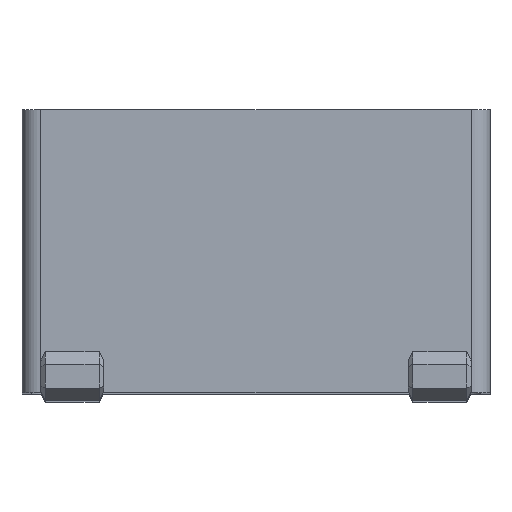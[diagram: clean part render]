
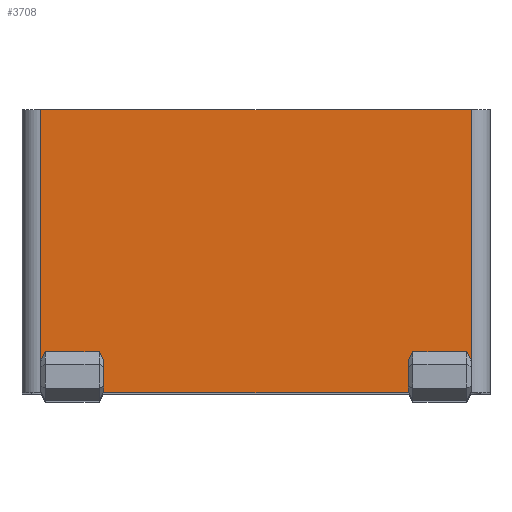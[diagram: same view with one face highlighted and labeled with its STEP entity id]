
A CAD part, top view. The second image highlights one B-rep face of the part: STEP entity #3708.
In plain terms, the highlighted planar face has unit normal (0, 0, 1).
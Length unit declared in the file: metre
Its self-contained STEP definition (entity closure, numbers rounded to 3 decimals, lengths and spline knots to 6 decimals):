
#134=LINE('',#5596,#526);
#170=LINE('',#5747,#562);
#171=LINE('',#5750,#563);
#172=LINE('',#5752,#564);
#173=LINE('',#5754,#565);
#174=LINE('',#5755,#566);
#175=LINE('',#5757,#567);
#176=LINE('',#5759,#568);
#177=LINE('',#5761,#569);
#178=LINE('',#5763,#570);
#179=LINE('',#5765,#571);
#180=LINE('',#5767,#572);
#526=VECTOR('',#4438,1.);
#562=VECTOR('',#4586,1.);
#563=VECTOR('',#4587,1.);
#564=VECTOR('',#4588,1.);
#565=VECTOR('',#4589,1.);
#566=VECTOR('',#4590,1.);
#567=VECTOR('',#4591,1.);
#568=VECTOR('',#4592,1.);
#569=VECTOR('',#4593,1.);
#570=VECTOR('',#4594,1.);
#571=VECTOR('',#4595,1.);
#572=VECTOR('',#4596,1.);
#1065=ORIENTED_EDGE('',*,*,#2093,.F.);
#1066=ORIENTED_EDGE('',*,*,#2094,.F.);
#1067=ORIENTED_EDGE('',*,*,#2095,.F.);
#1068=ORIENTED_EDGE('',*,*,#2096,.F.);
#1069=ORIENTED_EDGE('',*,*,#2017,.F.);
#1070=ORIENTED_EDGE('',*,*,#2097,.T.);
#1071=ORIENTED_EDGE('',*,*,#2098,.T.);
#1072=ORIENTED_EDGE('',*,*,#2099,.T.);
#1073=ORIENTED_EDGE('',*,*,#2100,.T.);
#1074=ORIENTED_EDGE('',*,*,#2101,.T.);
#1075=ORIENTED_EDGE('',*,*,#2102,.T.);
#1076=ORIENTED_EDGE('',*,*,#2103,.F.);
#2017=EDGE_CURVE('',#2541,#2542,#134,.T.);
#2093=EDGE_CURVE('',#2596,#2597,#170,.T.);
#2094=EDGE_CURVE('',#2598,#2596,#171,.T.);
#2095=EDGE_CURVE('',#2599,#2598,#172,.T.);
#2096=EDGE_CURVE('',#2542,#2599,#173,.T.);
#2097=EDGE_CURVE('',#2541,#2600,#174,.T.);
#2098=EDGE_CURVE('',#2600,#2601,#175,.T.);
#2099=EDGE_CURVE('',#2601,#2602,#176,.T.);
#2100=EDGE_CURVE('',#2602,#2603,#177,.T.);
#2101=EDGE_CURVE('',#2603,#2604,#178,.T.);
#2102=EDGE_CURVE('',#2604,#2605,#179,.T.);
#2103=EDGE_CURVE('',#2597,#2605,#180,.T.);
#2541=VERTEX_POINT('',#5595);
#2542=VERTEX_POINT('',#5597);
#2596=VERTEX_POINT('',#5748);
#2597=VERTEX_POINT('',#5749);
#2598=VERTEX_POINT('',#5751);
#2599=VERTEX_POINT('',#5753);
#2600=VERTEX_POINT('',#5756);
#2601=VERTEX_POINT('',#5758);
#2602=VERTEX_POINT('',#5760);
#2603=VERTEX_POINT('',#5762);
#2604=VERTEX_POINT('',#5764);
#2605=VERTEX_POINT('',#5766);
#2960=EDGE_LOOP('',(#1065,#1066,#1067,#1068,#1069,#1070,#1071,#1072,#1073,
#1074,#1075,#1076));
#3266=FACE_BOUND('',#2960,.T.);
#3539=PLANE('',#4030);
#3708=ADVANCED_FACE('',(#3266),#3539,.F.);
#4030=AXIS2_PLACEMENT_3D('',#5746,#4584,#4585);
#4438=DIRECTION('',(-1.,0.,0.));
#4584=DIRECTION('',(0.,0.,-1.));
#4585=DIRECTION('',(-1.,0.,0.));
#4586=DIRECTION('',(-1.,0.,0.));
#4587=DIRECTION('',(0.,1.,0.));
#4588=DIRECTION('',(0.,1.,0.));
#4589=DIRECTION('',(0.,1.,0.));
#4590=DIRECTION('',(0.,1.,0.));
#4591=DIRECTION('',(0.,1.,0.));
#4592=DIRECTION('',(0.,1.,0.));
#4593=DIRECTION('',(1.,0.,0.));
#4594=DIRECTION('',(0.,1.,0.));
#4595=DIRECTION('',(-1.,0.,0.));
#4596=DIRECTION('',(0.,1.,0.));
#5595=CARTESIAN_POINT('',(0.0325,-0.08555,0.0964));
#5596=CARTESIAN_POINT('',(0.,-0.08555,0.0964));
#5597=CARTESIAN_POINT('',(-0.0325,-0.08555,0.0964));
#5746=CARTESIAN_POINT('',(0.,-0.028,0.0964));
#5747=CARTESIAN_POINT('',(-0.0325,-0.07845,0.0964));
#5748=CARTESIAN_POINT('',(-0.0325,-0.07845,0.0964));
#5749=CARTESIAN_POINT('',(-0.046,-0.07845,0.0964));
#5750=CARTESIAN_POINT('',(-0.0325,-0.083775,0.0964));
#5751=CARTESIAN_POINT('',(-0.0325,-0.08045,0.0964));
#5752=CARTESIAN_POINT('',(-0.0325,-0.083775,0.0964));
#5753=CARTESIAN_POINT('',(-0.0325,-0.08355,0.0964));
#5754=CARTESIAN_POINT('',(-0.0325,-0.083775,0.0964));
#5755=CARTESIAN_POINT('',(0.0325,-0.083775,0.0964));
#5756=CARTESIAN_POINT('',(0.0325,-0.08355,0.0964));
#5757=CARTESIAN_POINT('',(0.0325,-0.083775,0.0964));
#5758=CARTESIAN_POINT('',(0.0325,-0.08045,0.0964));
#5759=CARTESIAN_POINT('',(0.0325,-0.083775,0.0964));
#5760=CARTESIAN_POINT('',(0.0325,-0.07845,0.0964));
#5761=CARTESIAN_POINT('',(0.0325,-0.07845,0.0964));
#5762=CARTESIAN_POINT('',(0.046,-0.07845,0.0964));
#5763=CARTESIAN_POINT('',(0.046,-0.028,0.0964));
#5764=CARTESIAN_POINT('',(0.046,-0.025,0.0964));
#5765=CARTESIAN_POINT('',(0.,-0.025,0.0964));
#5766=CARTESIAN_POINT('',(-0.046,-0.025,0.0964));
#5767=CARTESIAN_POINT('',(-0.046,-0.028,0.0964));
